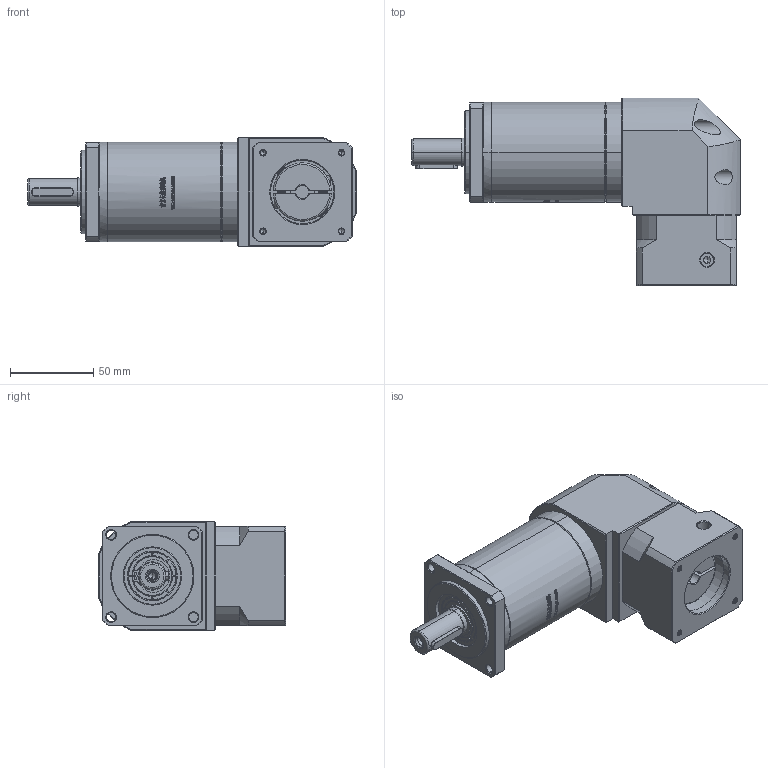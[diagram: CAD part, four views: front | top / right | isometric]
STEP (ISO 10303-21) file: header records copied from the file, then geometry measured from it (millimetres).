
FILE_DESCRIPTION (( 'STEP AP214' ), '1' );
FILE_NAME ('ZFR60-D16-L3-8-38.1-47.14x47.14-M4.STEP', '2022-04-20T08:22:37', ( '' ), ( 'Microsoft' ), 'SwSTEP 2.0', 'SolidWorks 2016', '' );
FILE_SCHEMA (( 'AUTOMOTIVE_DESIGN' ));
Length unit declared in the file: millimetre
Products named in the file (1): ZFR60-D16-L3-8-38.1-47.14x47.14-M4
Bounding box: 197.5 x 112.7 x 65 mm (x, y, z)
Volume: 642335.8 mm3; surface area: 86797.8 mm2
Topology: 5 solids, 6 shells, 2687 faces, 7328 edges, 4779 vertices
Faces by surface type: plane 1398, bspline 579, cylinder 396, cone 290, torus 24
Entity records: 146895 total; most frequent: CARTESIAN_POINT 54932, ORIENTED_EDGE 14612, DIRECTION 10525, EDGE_CURVE 7306, VERTEX_POINT 4779, LINE 4381, VECTOR 4381, AXIS2_PLACEMENT_3D 3072
